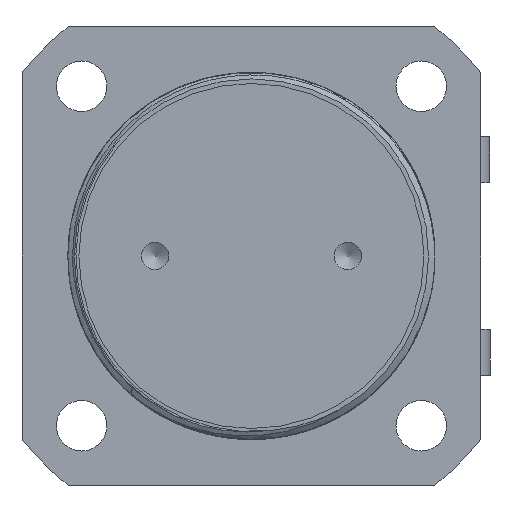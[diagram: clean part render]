
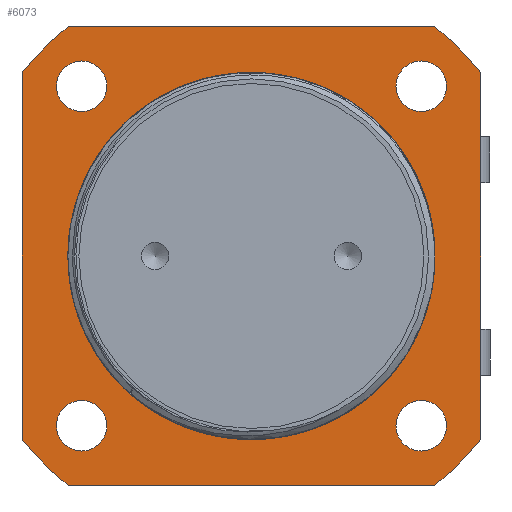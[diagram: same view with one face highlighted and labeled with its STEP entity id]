
A CAD part, front view. The second image highlights one B-rep face of the part: STEP entity #6073.
In plain terms, the highlighted planar face has unit normal (0, -1, 0).
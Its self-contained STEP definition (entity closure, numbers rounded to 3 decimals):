
#214=FACE_BOUND('',#965,.T.);
#215=FACE_BOUND('',#966,.T.);
#216=FACE_BOUND('',#967,.T.);
#217=FACE_BOUND('',#968,.T.);
#218=FACE_BOUND('',#969,.T.);
#270=PLANE('',#6587);
#617=FACE_OUTER_BOUND('',#964,.T.);
#964=EDGE_LOOP('',(#4593,#4594,#4595,#4596,#4597,#4598,#4599,#4600));
#965=EDGE_LOOP('',(#4601));
#966=EDGE_LOOP('',(#4602,#4603));
#967=EDGE_LOOP('',(#4604,#4605));
#968=EDGE_LOOP('',(#4606,#4607));
#969=EDGE_LOOP('',(#4608,#4609));
#1276=CIRCLE('',#6573,20.);
#1285=CIRCLE('',#6588,32.);
#1286=CIRCLE('',#6589,32.);
#1287=CIRCLE('',#6590,32.);
#1288=CIRCLE('',#6591,32.);
#1289=CIRCLE('',#6592,2.75);
#1290=CIRCLE('',#6593,2.75);
#1291=CIRCLE('',#6594,2.75);
#1292=CIRCLE('',#6595,2.75);
#1293=CIRCLE('',#6596,2.75);
#1294=CIRCLE('',#6597,2.75);
#1295=CIRCLE('',#6598,2.75);
#1296=CIRCLE('',#6599,2.75);
#1960=LINE('',#26572,#2286);
#1961=LINE('',#26576,#2287);
#1962=LINE('',#26580,#2288);
#1963=LINE('',#26583,#2289);
#2286=VECTOR('',#7373,39.95);
#2287=VECTOR('',#7376,39.95);
#2288=VECTOR('',#7379,39.95);
#2289=VECTOR('',#7382,39.95);
#2706=VERTEX_POINT('',#19795);
#2734=VERTEX_POINT('',#26568);
#2735=VERTEX_POINT('',#26569);
#2736=VERTEX_POINT('',#26571);
#2737=VERTEX_POINT('',#26573);
#2738=VERTEX_POINT('',#26575);
#2739=VERTEX_POINT('',#26577);
#2740=VERTEX_POINT('',#26579);
#2741=VERTEX_POINT('',#26581);
#2742=VERTEX_POINT('',#26584);
#2743=VERTEX_POINT('',#26585);
#2744=VERTEX_POINT('',#26588);
#2745=VERTEX_POINT('',#26589);
#2746=VERTEX_POINT('',#26592);
#2747=VERTEX_POINT('',#26593);
#2748=VERTEX_POINT('',#26596);
#2749=VERTEX_POINT('',#26597);
#3403=EDGE_CURVE('',#2706,#2706,#1276,.T.);
#3458=EDGE_CURVE('',#2734,#2735,#1285,.T.);
#3459=EDGE_CURVE('',#2736,#2734,#1960,.T.);
#3460=EDGE_CURVE('',#2737,#2736,#1286,.T.);
#3461=EDGE_CURVE('',#2738,#2737,#1961,.T.);
#3462=EDGE_CURVE('',#2739,#2738,#1287,.T.);
#3463=EDGE_CURVE('',#2740,#2739,#1962,.T.);
#3464=EDGE_CURVE('',#2741,#2740,#1288,.T.);
#3465=EDGE_CURVE('',#2735,#2741,#1963,.T.);
#3466=EDGE_CURVE('',#2742,#2743,#1289,.T.);
#3467=EDGE_CURVE('',#2743,#2742,#1290,.T.);
#3468=EDGE_CURVE('',#2744,#2745,#1291,.T.);
#3469=EDGE_CURVE('',#2745,#2744,#1292,.T.);
#3470=EDGE_CURVE('',#2746,#2747,#1293,.T.);
#3471=EDGE_CURVE('',#2747,#2746,#1294,.T.);
#3472=EDGE_CURVE('',#2748,#2749,#1295,.T.);
#3473=EDGE_CURVE('',#2749,#2748,#1296,.T.);
#4593=ORIENTED_EDGE('',*,*,#3458,.F.);
#4594=ORIENTED_EDGE('',*,*,#3459,.F.);
#4595=ORIENTED_EDGE('',*,*,#3460,.F.);
#4596=ORIENTED_EDGE('',*,*,#3461,.F.);
#4597=ORIENTED_EDGE('',*,*,#3462,.F.);
#4598=ORIENTED_EDGE('',*,*,#3463,.F.);
#4599=ORIENTED_EDGE('',*,*,#3464,.F.);
#4600=ORIENTED_EDGE('',*,*,#3465,.F.);
#4601=ORIENTED_EDGE('',*,*,#3403,.T.);
#4602=ORIENTED_EDGE('',*,*,#3466,.T.);
#4603=ORIENTED_EDGE('',*,*,#3467,.T.);
#4604=ORIENTED_EDGE('',*,*,#3468,.T.);
#4605=ORIENTED_EDGE('',*,*,#3469,.T.);
#4606=ORIENTED_EDGE('',*,*,#3470,.T.);
#4607=ORIENTED_EDGE('',*,*,#3471,.T.);
#4608=ORIENTED_EDGE('',*,*,#3472,.T.);
#4609=ORIENTED_EDGE('',*,*,#3473,.T.);
#6073=ADVANCED_FACE('',(#617,#214,#215,#216,#217,#218),#270,.F.);
#6573=AXIS2_PLACEMENT_3D('',#19796,#7319,#7320);
#6587=AXIS2_PLACEMENT_3D('',#26567,#7369,#7370);
#6588=AXIS2_PLACEMENT_3D('',#26570,#7371,#7372);
#6589=AXIS2_PLACEMENT_3D('',#26574,#7374,#7375);
#6590=AXIS2_PLACEMENT_3D('',#26578,#7377,#7378);
#6591=AXIS2_PLACEMENT_3D('',#26582,#7380,#7381);
#6592=AXIS2_PLACEMENT_3D('',#26586,#7383,#7384);
#6593=AXIS2_PLACEMENT_3D('',#26587,#7385,#7386);
#6594=AXIS2_PLACEMENT_3D('',#26590,#7387,#7388);
#6595=AXIS2_PLACEMENT_3D('',#26591,#7389,#7390);
#6596=AXIS2_PLACEMENT_3D('',#26594,#7391,#7392);
#6597=AXIS2_PLACEMENT_3D('',#26595,#7393,#7394);
#6598=AXIS2_PLACEMENT_3D('',#26598,#7395,#7396);
#6599=AXIS2_PLACEMENT_3D('',#26599,#7397,#7398);
#7319=DIRECTION('center_axis',(0.,1.,0.));
#7320=DIRECTION('ref_axis',(-1.,0.,0.));
#7369=DIRECTION('center_axis',(0.,1.,0.));
#7370=DIRECTION('ref_axis',(1.,0.,0.));
#7371=DIRECTION('center_axis',(0.,1.,0.));
#7372=DIRECTION('ref_axis',(-0.624,0.,-0.781));
#7373=DIRECTION('',(-1.,0.,0.));
#7374=DIRECTION('center_axis',(0.,1.,0.));
#7375=DIRECTION('ref_axis',(0.781,0.,-0.624));
#7376=DIRECTION('',(0.,0.,-1.));
#7377=DIRECTION('center_axis',(0.,1.,0.));
#7378=DIRECTION('ref_axis',(0.624,0.,0.781));
#7379=DIRECTION('',(1.,0.,0.));
#7380=DIRECTION('center_axis',(0.,1.,0.));
#7381=DIRECTION('ref_axis',(-0.781,0.,0.624));
#7382=DIRECTION('',(0.,0.,1.));
#7383=DIRECTION('center_axis',(0.,1.,0.));
#7384=DIRECTION('ref_axis',(1.,0.,0.));
#7385=DIRECTION('center_axis',(0.,1.,0.));
#7386=DIRECTION('ref_axis',(1.,0.,0.));
#7387=DIRECTION('center_axis',(0.,1.,0.));
#7388=DIRECTION('ref_axis',(1.,0.,0.));
#7389=DIRECTION('center_axis',(0.,1.,0.));
#7390=DIRECTION('ref_axis',(1.,0.,0.));
#7391=DIRECTION('center_axis',(0.,1.,0.));
#7392=DIRECTION('ref_axis',(1.,0.,0.));
#7393=DIRECTION('center_axis',(0.,1.,0.));
#7394=DIRECTION('ref_axis',(1.,0.,0.));
#7395=DIRECTION('center_axis',(0.,1.,0.));
#7396=DIRECTION('ref_axis',(1.,0.,0.));
#7397=DIRECTION('center_axis',(0.,1.,0.));
#7398=DIRECTION('ref_axis',(1.,0.,0.));
#19795=CARTESIAN_POINT('',(-20.,61.5,0.));
#19796=CARTESIAN_POINT('Origin',(0.,61.5,0.));
#26567=CARTESIAN_POINT('Origin',(0.,61.5,0.));
#26568=CARTESIAN_POINT('',(-19.975,61.5,-25.));
#26569=CARTESIAN_POINT('',(-25.,61.5,-19.975));
#26570=CARTESIAN_POINT('Origin',(0.,61.5,0.));
#26571=CARTESIAN_POINT('',(19.975,61.5,-25.));
#26572=CARTESIAN_POINT('',(19.975,61.5,-25.));
#26573=CARTESIAN_POINT('',(25.,61.5,-19.975));
#26574=CARTESIAN_POINT('Origin',(0.,61.5,0.));
#26575=CARTESIAN_POINT('',(25.,61.5,19.975));
#26576=CARTESIAN_POINT('',(25.,61.5,19.975));
#26577=CARTESIAN_POINT('',(19.975,61.5,25.));
#26578=CARTESIAN_POINT('Origin',(0.,61.5,0.));
#26579=CARTESIAN_POINT('',(-19.975,61.5,25.));
#26580=CARTESIAN_POINT('',(-19.975,61.5,25.));
#26581=CARTESIAN_POINT('',(-25.,61.5,19.975));
#26582=CARTESIAN_POINT('Origin',(0.,61.5,0.));
#26583=CARTESIAN_POINT('',(-25.,61.5,-19.975));
#26584=CARTESIAN_POINT('',(21.25,61.5,-18.5));
#26585=CARTESIAN_POINT('',(15.75,61.5,-18.5));
#26586=CARTESIAN_POINT('Origin',(18.5,61.5,-18.5));
#26587=CARTESIAN_POINT('Origin',(18.5,61.5,-18.5));
#26588=CARTESIAN_POINT('',(-15.75,61.5,-18.5));
#26589=CARTESIAN_POINT('',(-21.25,61.5,-18.5));
#26590=CARTESIAN_POINT('Origin',(-18.5,61.5,-18.5));
#26591=CARTESIAN_POINT('Origin',(-18.5,61.5,-18.5));
#26592=CARTESIAN_POINT('',(-15.75,61.5,18.5));
#26593=CARTESIAN_POINT('',(-21.25,61.5,18.5));
#26594=CARTESIAN_POINT('Origin',(-18.5,61.5,18.5));
#26595=CARTESIAN_POINT('Origin',(-18.5,61.5,18.5));
#26596=CARTESIAN_POINT('',(21.25,61.5,18.5));
#26597=CARTESIAN_POINT('',(15.75,61.5,18.5));
#26598=CARTESIAN_POINT('Origin',(18.5,61.5,18.5));
#26599=CARTESIAN_POINT('Origin',(18.5,61.5,18.5));
